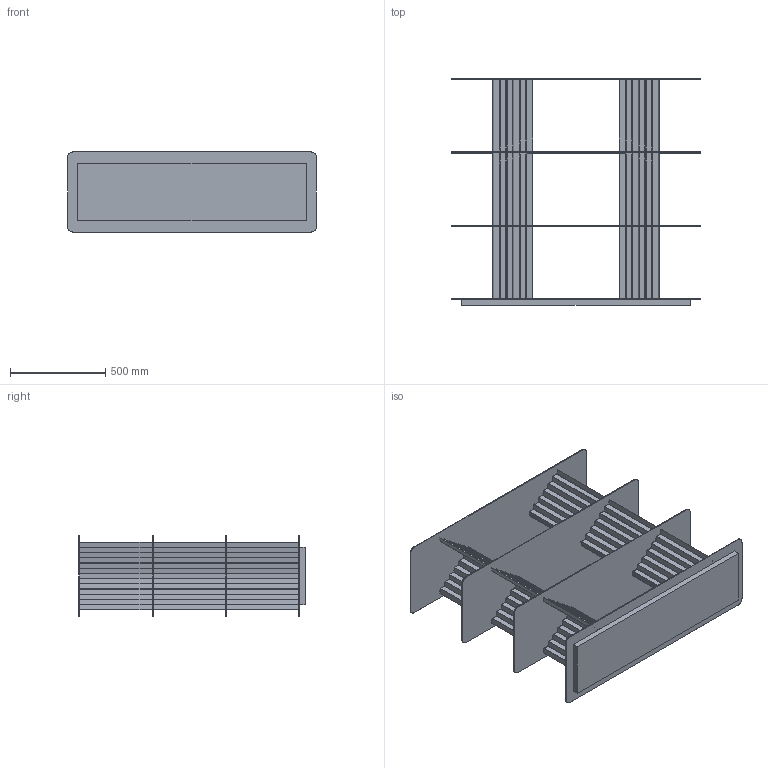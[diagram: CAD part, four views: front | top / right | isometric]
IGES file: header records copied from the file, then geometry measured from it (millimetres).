
Start section: SolidWorks IGES file using analytic representation for surfaces
Global section: file name: Z:\30-Ingenieria I+D\Proyectos\03-Plec_Shelves APO\1-sw\WEB\Arxius\PLEC SHELVES XS 3 NIVELES.IGS; native system: SolidWorks 2020; preprocessor: SolidWorks 2020; author: Bernat Llonch; date: 250508.121520; units: millimetre
Bounding box: 1305 x 1187 x 420 mm (x, y, z)
Surface area: 8557701.7 mm2 (no closed solid volume)
Topology: 0 solids, 0 shells, 370 faces, 2312 edges, 2312 vertices
Faces by surface type: bspline 354, revolution 16
